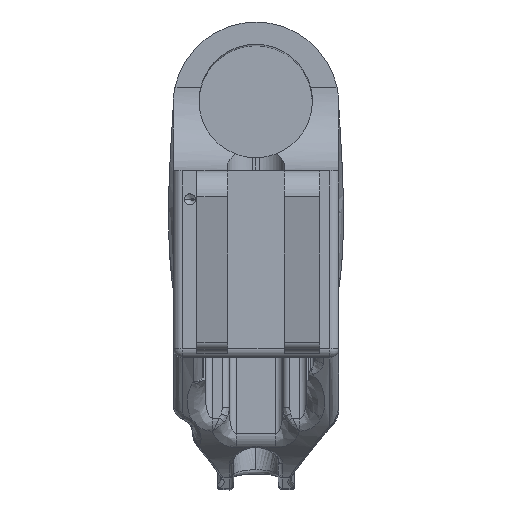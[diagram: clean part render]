
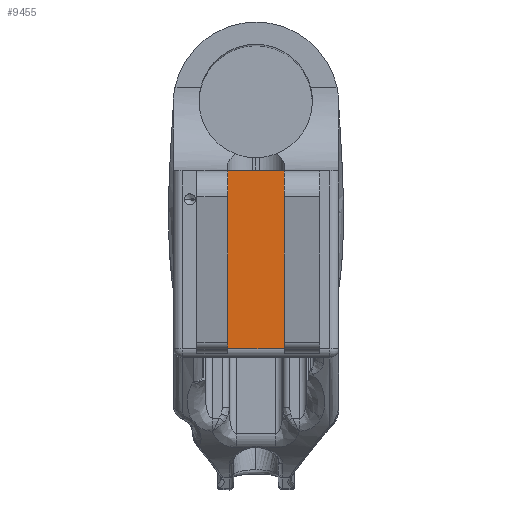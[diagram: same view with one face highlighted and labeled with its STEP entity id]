
A CAD part, top view. The second image highlights one B-rep face of the part: STEP entity #9455.
In plain terms, the highlighted planar face has unit normal (0, 0, 1).
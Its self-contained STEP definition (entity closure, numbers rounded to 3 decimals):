
#12 = CARTESIAN_POINT ( 'NONE',  ( 49.457, 7.656, 301.79 ) ) ;
#288 = VERTEX_POINT ( 'NONE', #28173 ) ;
#1286 = DIRECTION ( 'NONE',  ( 1., 0., 0. ) ) ;
#1358 = CARTESIAN_POINT ( 'NONE',  ( 6.365, 7.656, 301.79 ) ) ;
#2368 = CARTESIAN_POINT ( 'NONE',  ( 6.365, 47.507, 301.79 ) ) ;
#2852 = EDGE_CURVE ( 'NONE', #5018, #288, #26730, .T. ) ;
#3250 = DIRECTION ( 'NONE',  ( 0., 0., -1. ) ) ;
#5018 = VERTEX_POINT ( 'NONE', #1358 ) ;
#5827 = EDGE_CURVE ( 'NONE', #288, #28089, #7224, .T. ) ;
#6585 = DIRECTION ( 'NONE',  ( -1., 0., 0. ) ) ;
#6750 = DIRECTION ( 'NONE',  ( 0., 1., 0. ) ) ;
#7130 = AXIS2_PLACEMENT_3D ( 'NONE', #11934, #3250, #18506 ) ;
#7224 = LINE ( 'NONE', #14357, #25285 ) ;
#7493 = CARTESIAN_POINT ( 'NONE',  ( 19.065, 47.507, 301.79 ) ) ;
#8516 = VECTOR ( 'NONE', #6585, 1000. ) ;
#9455 = ADVANCED_FACE ( 'NONE', ( #14353 ), #22802, .F. ) ;
#11205 = ORIENTED_EDGE ( 'NONE', *, *, #19166, .F. ) ;
#11934 = CARTESIAN_POINT ( 'NONE',  ( -0.543, 45.92, 301.79 ) ) ;
#14353 = FACE_OUTER_BOUND ( 'NONE', #23047, .T. ) ;
#14357 = CARTESIAN_POINT ( 'NONE',  ( 19.065, 47.507, 301.79 ) ) ;
#14691 = ORIENTED_EDGE ( 'NONE', *, *, #5827, .F. ) ;
#15150 = VECTOR ( 'NONE', #6750, 1000. ) ;
#18506 = DIRECTION ( 'NONE',  ( 0., -1., 0. ) ) ;
#18640 = VECTOR ( 'NONE', #21784, 1000. ) ;
#19166 = EDGE_CURVE ( 'NONE', #28089, #22173, #24437, .T. ) ;
#20118 = LINE ( 'NONE', #12, #8516 ) ;
#21547 = ORIENTED_EDGE ( 'NONE', *, *, #24832, .F. ) ;
#21784 = DIRECTION ( 'NONE',  ( 0., -1., 0. ) ) ;
#22173 = VERTEX_POINT ( 'NONE', #25242 ) ;
#22802 = PLANE ( 'NONE',  #7130 ) ;
#23047 = EDGE_LOOP ( 'NONE', ( #23169, #21547, #11205, #14691 ) ) ;
#23169 = ORIENTED_EDGE ( 'NONE', *, *, #2852, .F. ) ;
#24437 = LINE ( 'NONE', #28235, #18640 ) ;
#24832 = EDGE_CURVE ( 'NONE', #22173, #5018, #20118, .T. ) ;
#25242 = CARTESIAN_POINT ( 'NONE',  ( 19.065, 7.656, 301.79 ) ) ;
#25285 = VECTOR ( 'NONE', #1286, 1000. ) ;
#26730 = LINE ( 'NONE', #2368, #15150 ) ;
#28089 = VERTEX_POINT ( 'NONE', #7493 ) ;
#28173 = CARTESIAN_POINT ( 'NONE',  ( 6.365, 47.507, 301.79 ) ) ;
#28235 = CARTESIAN_POINT ( 'NONE',  ( 19.065, 13.471, 301.79 ) ) ;
